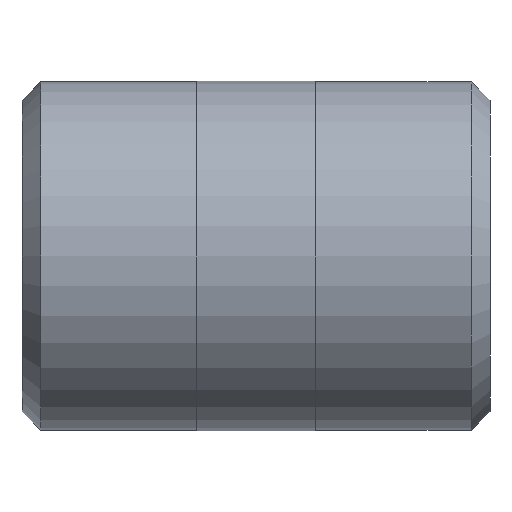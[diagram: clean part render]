
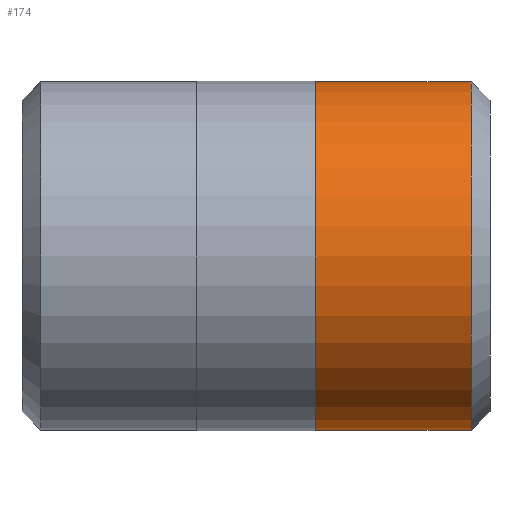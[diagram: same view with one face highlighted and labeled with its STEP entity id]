
A CAD part, left-side view. The second image highlights one B-rep face of the part: STEP entity #174.
In plain terms, the highlighted cylindrical face has radius 10.643 mm (diameter 21.285 mm), a full revolution.
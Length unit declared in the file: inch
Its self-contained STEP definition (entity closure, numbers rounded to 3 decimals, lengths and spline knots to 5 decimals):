
#23=CYLINDRICAL_SURFACE('',#201,0.419);
#28=FACE_OUTER_BOUND('',#38,.T.);
#38=EDGE_LOOP('',(#128,#129,#130,#131,#132,#133));
#52=LINE('',#300,#58);
#58=VECTOR('',#238,0.419);
#64=CIRCLE('',#199,0.419);
#65=CIRCLE('',#200,0.419);
#66=CIRCLE('',#202,0.419);
#67=CIRCLE('',#203,0.419);
#82=VERTEX_POINT('',#293);
#83=VERTEX_POINT('',#295);
#84=VERTEX_POINT('',#299);
#85=VERTEX_POINT('',#301);
#101=EDGE_CURVE('',#82,#83,#64,.T.);
#102=EDGE_CURVE('',#83,#82,#65,.T.);
#103=EDGE_CURVE('',#83,#84,#52,.T.);
#104=EDGE_CURVE('',#84,#85,#66,.T.);
#105=EDGE_CURVE('',#85,#84,#67,.T.);
#128=ORIENTED_EDGE('',*,*,#101,.F.);
#129=ORIENTED_EDGE('',*,*,#102,.F.);
#130=ORIENTED_EDGE('',*,*,#103,.T.);
#131=ORIENTED_EDGE('',*,*,#104,.T.);
#132=ORIENTED_EDGE('',*,*,#105,.T.);
#133=ORIENTED_EDGE('',*,*,#103,.F.);
#174=ADVANCED_FACE('',(#28),#23,.T.);
#199=AXIS2_PLACEMENT_3D('',#296,#232,#233);
#200=AXIS2_PLACEMENT_3D('',#297,#234,#235);
#201=AXIS2_PLACEMENT_3D('',#298,#236,#237);
#202=AXIS2_PLACEMENT_3D('',#302,#239,#240);
#203=AXIS2_PLACEMENT_3D('',#303,#241,#242);
#232=DIRECTION('center_axis',(0.,-1.,0.));
#233=DIRECTION('ref_axis',(0.,0.,1.));
#234=DIRECTION('center_axis',(0.,-1.,0.));
#235=DIRECTION('ref_axis',(0.,0.,1.));
#236=DIRECTION('center_axis',(0.,-1.,0.));
#237=DIRECTION('ref_axis',(0.,0.,-1.));
#238=DIRECTION('',(0.,1.,0.));
#239=DIRECTION('center_axis',(0.,-1.,0.));
#240=DIRECTION('ref_axis',(1.,0.,0.));
#241=DIRECTION('center_axis',(0.,-1.,0.));
#242=DIRECTION('ref_axis',(1.,0.,0.));
#293=CARTESIAN_POINT('',(0.,0.045,-0.419));
#295=CARTESIAN_POINT('',(0.,0.045,0.419));
#296=CARTESIAN_POINT('Origin',(0.,0.045,0.));
#297=CARTESIAN_POINT('Origin',(0.,0.045,0.));
#298=CARTESIAN_POINT('Origin',(0.,0.21,0.));
#299=CARTESIAN_POINT('',(0.,0.42,0.419));
#300=CARTESIAN_POINT('',(0.,0.21,0.419));
#301=CARTESIAN_POINT('',(0.,0.42,-0.419));
#302=CARTESIAN_POINT('Origin',(0.,0.42,0.));
#303=CARTESIAN_POINT('Origin',(0.,0.42,0.));
